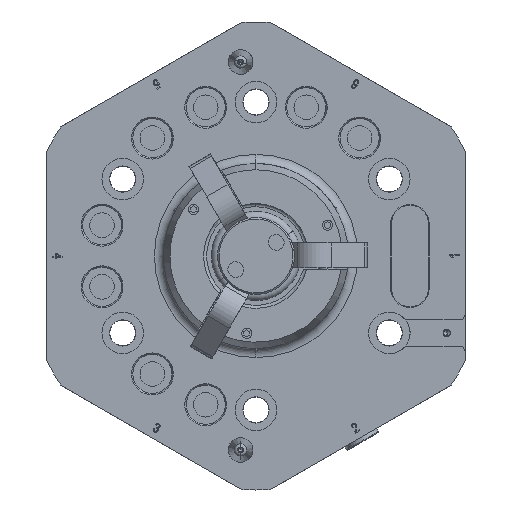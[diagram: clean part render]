
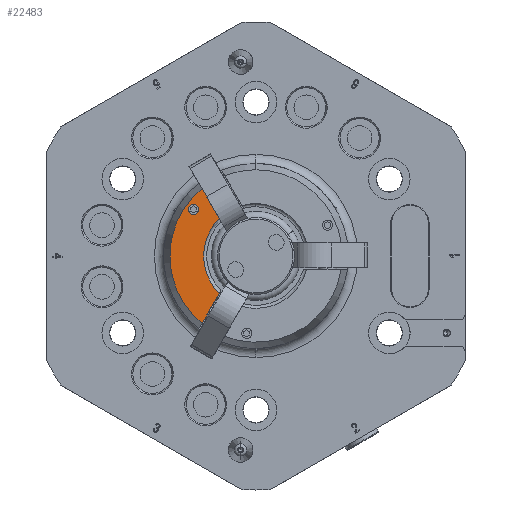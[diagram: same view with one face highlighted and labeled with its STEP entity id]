
A CAD part, front view. The second image highlights one B-rep face of the part: STEP entity #22483.
In plain terms, the highlighted planar face has unit normal (0, -1, 0).
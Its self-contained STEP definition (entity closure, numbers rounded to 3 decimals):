
#63 = AXIS2_PLACEMENT_3D ( 'NONE', #9821, #20036, #40168 ) ;
#510 = CARTESIAN_POINT ( 'NONE',  ( -20.288, -33.5, 15.133 ) ) ;
#2507 = EDGE_LOOP ( 'NONE', ( #44506, #40474 ) ) ;
#2750 = CARTESIAN_POINT ( 'NONE',  ( -20.288, -33.5, 15.133 ) ) ;
#2786 = CIRCLE ( 'NONE', #33372, 1.65 ) ;
#3027 = EDGE_CURVE ( 'NONE', #33200, #40613, #44306, .T. ) ;
#4505 = DIRECTION ( 'NONE',  ( 0., -1., 0. ) ) ;
#4624 = CARTESIAN_POINT ( 'NONE',  ( 0., -33.5, 0. ) ) ;
#6122 = ORIENTED_EDGE ( 'NONE', *, *, #63438, .T. ) ;
#7720 = CARTESIAN_POINT ( 'NONE',  ( -20.288, -33.5, 16.783 ) ) ;
#9114 = EDGE_CURVE ( 'NONE', #62115, #33200, #30367, .T. ) ;
#9821 = CARTESIAN_POINT ( 'NONE',  ( 0., -33.5, 0. ) ) ;
#10567 = AXIS2_PLACEMENT_3D ( 'NONE', #4624, #34670, #38975 ) ;
#12196 = VERTEX_POINT ( 'NONE', #58911 ) ;
#12284 = EDGE_CURVE ( 'NONE', #57403, #12196, #2786, .T. ) ;
#19925 = DIRECTION ( 'NONE',  ( 0., 0., -1. ) ) ;
#20036 = DIRECTION ( 'NONE',  ( 0., -1., 0. ) ) ;
#22483 = ADVANCED_FACE ( 'NONE', ( #23579, #52268 ), #39429, .T. ) ;
#23452 = ORIENTED_EDGE ( 'NONE', *, *, #44178, .F. ) ;
#23579 = FACE_BOUND ( 'NONE', #2507, .T. ) ;
#25904 = VERTEX_POINT ( 'NONE', #35833 ) ;
#26214 = ORIENTED_EDGE ( 'NONE', *, *, #3027, .F. ) ;
#27855 = DIRECTION ( 'NONE',  ( 0., -1., 0. ) ) ;
#29403 = CARTESIAN_POINT ( 'NONE',  ( -11.911, -33.5, 12.13 ) ) ;
#30367 = LINE ( 'NONE', #29403, #33275 ) ;
#32788 = AXIS2_PLACEMENT_3D ( 'NONE', #45001, #58823, #19925 ) ;
#33200 = VERTEX_POINT ( 'NONE', #54531 ) ;
#33275 = VECTOR ( 'NONE', #45546, 1000. ) ;
#33372 = AXIS2_PLACEMENT_3D ( 'NONE', #510, #4505, #39839 ) ;
#34000 = CARTESIAN_POINT ( 'NONE',  ( -17.517, -33.5, 21.841 ) ) ;
#34670 = DIRECTION ( 'NONE',  ( 0., -1., 0. ) ) ;
#35833 = CARTESIAN_POINT ( 'NONE',  ( -17.517, -33.5, -21.841 ) ) ;
#36765 = CIRCLE ( 'NONE', #10567, 27.998 ) ;
#38975 = DIRECTION ( 'NONE',  ( 0., 0., -1. ) ) ;
#39429 = PLANE ( 'NONE',  #32788 ) ;
#39839 = DIRECTION ( 'NONE',  ( 0., 0., -1. ) ) ;
#40168 = DIRECTION ( 'NONE',  ( 0., 0., -1. ) ) ;
#40474 = ORIENTED_EDGE ( 'NONE', *, *, #12284, .F. ) ;
#40613 = VERTEX_POINT ( 'NONE', #55821 ) ;
#40698 = AXIS2_PLACEMENT_3D ( 'NONE', #2750, #27855, #47633 ) ;
#44178 = EDGE_CURVE ( 'NONE', #40613, #25904, #64191, .T. ) ;
#44306 = CIRCLE ( 'NONE', #63, 17. ) ;
#44506 = ORIENTED_EDGE ( 'NONE', *, *, #57396, .F. ) ;
#45001 = CARTESIAN_POINT ( 'NONE',  ( 0., -33.5, 0. ) ) ;
#45440 = CARTESIAN_POINT ( 'NONE',  ( -11.911, -33.5, -12.13 ) ) ;
#45546 = DIRECTION ( 'NONE',  ( 0.5, 0., -0.866 ) ) ;
#47633 = DIRECTION ( 'NONE',  ( 0., 0., -1. ) ) ;
#47665 = ORIENTED_EDGE ( 'NONE', *, *, #9114, .F. ) ;
#49094 = EDGE_LOOP ( 'NONE', ( #47665, #6122, #23452, #26214 ) ) ;
#52268 = FACE_OUTER_BOUND ( 'NONE', #49094, .T. ) ;
#53675 = VECTOR ( 'NONE', #60238, 1000. ) ;
#54531 = CARTESIAN_POINT ( 'NONE',  ( -11.911, -33.5, 12.13 ) ) ;
#55821 = CARTESIAN_POINT ( 'NONE',  ( -11.911, -33.5, -12.13 ) ) ;
#57396 = EDGE_CURVE ( 'NONE', #12196, #57403, #62600, .T. ) ;
#57403 = VERTEX_POINT ( 'NONE', #7720 ) ;
#58823 = DIRECTION ( 'NONE',  ( 0., -1., 0. ) ) ;
#58911 = CARTESIAN_POINT ( 'NONE',  ( -20.288, -33.5, 13.483 ) ) ;
#60238 = DIRECTION ( 'NONE',  ( -0.5, 0., -0.866 ) ) ;
#62115 = VERTEX_POINT ( 'NONE', #34000 ) ;
#62600 = CIRCLE ( 'NONE', #40698, 1.65 ) ;
#63438 = EDGE_CURVE ( 'NONE', #62115, #25904, #36765, .T. ) ;
#64191 = LINE ( 'NONE', #45440, #53675 ) ;
